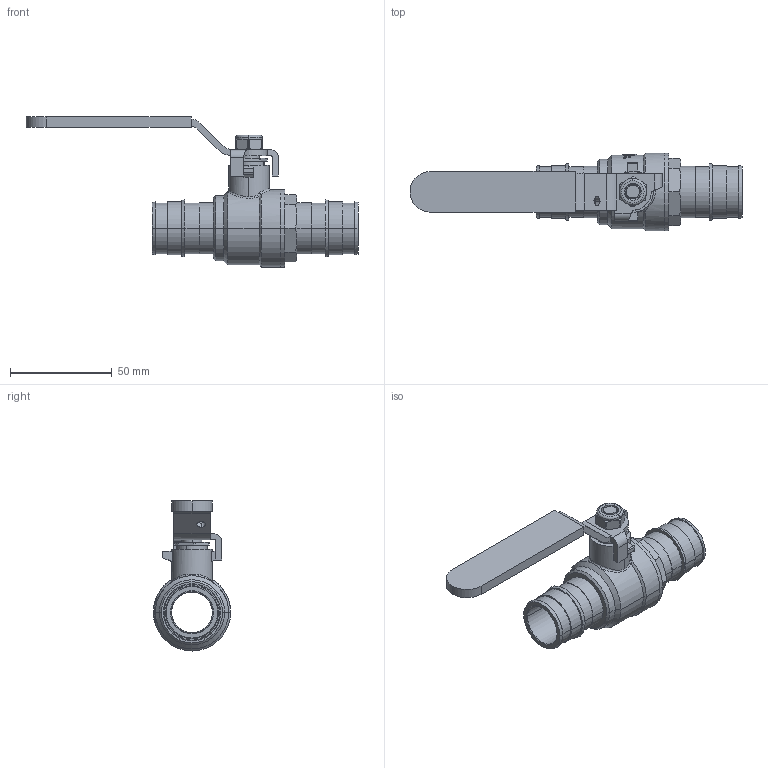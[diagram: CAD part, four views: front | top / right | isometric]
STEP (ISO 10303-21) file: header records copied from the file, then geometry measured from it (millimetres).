
FILE_DESCRIPTION(('Open CASCADE Model'),'2;1');
FILE_NAME('Open CASCADE Shape Model','2021-11-23T08:27:02',('Author'),( 'Open CASCADE'),'Open CASCADE STEP processor 7.3','Open CASCADE 7.3' ,'Unknown');
FILE_SCHEMA(('AUTOMOTIVE_DESIGN { 1 0 10303 214 1 1 1 1 }'));
Length unit declared in the file: millimetre
Products named in the file (12): Open CASCADE STEP translator 7.3 1; Open CASCADE STEP translator 7.3 1.1; Open CASCADE STEP translator 7.3 1.2; Open CASCADE STEP translator 7.3 1.3; Open CASCADE STEP translator 7.3 1.4; Open CASCADE STEP translator 7.3 1.5; Open CASCADE STEP translator 7.3 1.6; Open CASCADE STEP translator 7.3 1.7; Open CASCADE STEP translator 7.3 1.8; Open CASCADE STEP translator 7.3 1.9; Open CASCADE STEP translator 7.3 1.10; Open CASCADE STEP translator 7.3 1.11
Assembly tree (11 placements, depth 2):
  Open CASCADE STEP translator 7.3 1
    Open CASCADE STEP translator 7.3 1.1
    Open CASCADE STEP translator 7.3 1.2
    Open CASCADE STEP translator 7.3 1.3
    Open CASCADE STEP translator 7.3 1.4
    Open CASCADE STEP translator 7.3 1.5
    Open CASCADE STEP translator 7.3 1.6
    Open CASCADE STEP translator 7.3 1.7
    Open CASCADE STEP translator 7.3 1.8
    Open CASCADE STEP translator 7.3 1.9
    Open CASCADE STEP translator 7.3 1.10
    Open CASCADE STEP translator 7.3 1.11
Bounding box: 163.1 x 38 x 73.71 mm (x, y, z)
Volume: 51740.5 mm3; surface area: 40471.5 mm2
Topology: 11 solids, 11 shells, 570 faces, 1457 edges, 943 vertices
Faces by surface type: cylinder 188, plane 160, bspline 108, cone 84, torus 24, sphere 6
Entity records: 84538 total; most frequent: CARTESIAN_POINT 58290, DIRECTION 4009, ORIENTED_EDGE 2910, PCURVE 2910, DEFINITIONAL_REPRESENTATION 2910, LINE 1987, VECTOR 1987, EDGE_CURVE 1455
